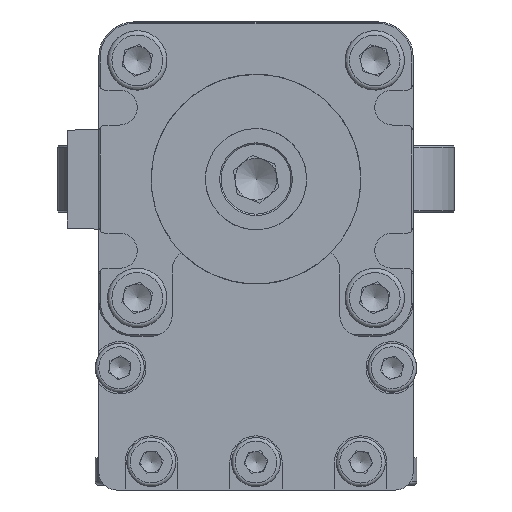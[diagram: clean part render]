
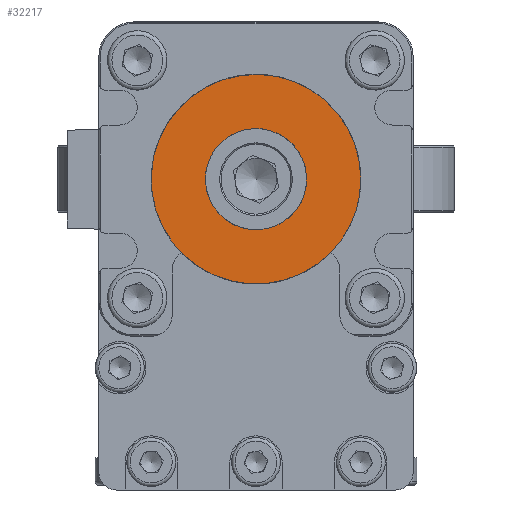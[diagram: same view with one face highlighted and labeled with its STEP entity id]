
A CAD part, front view. The second image highlights one B-rep face of the part: STEP entity #32217.
In plain terms, the highlighted planar face has unit normal (0, -1, 0).
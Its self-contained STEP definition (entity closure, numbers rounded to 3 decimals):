
#29943=PLANE('',#58108);
#32217=ADVANCED_FACE('',(#34480,#34481),#29943,.F.);
#34480=FACE_BOUND('',#36324,.T.);
#34481=FACE_BOUND('',#36325,.T.);
#36324=EDGE_LOOP('',(#41849));
#36325=EDGE_LOOP('',(#41850));
#41849=ORIENTED_EDGE('',*,*,#52736,.F.);
#41850=ORIENTED_EDGE('',*,*,#52753,.F.);
#49102=VERTEX_POINT('',#75583);
#49118=VERTEX_POINT('',#75860);
#52736=EDGE_CURVE('',#49102,#49102,#56154,.T.);
#52753=EDGE_CURVE('',#49118,#49118,#56158,.T.);
#56154=CIRCLE('',#58097,15.);
#56158=CIRCLE('',#58104,7.25);
#58097=AXIS2_PLACEMENT_3D('',#75582,#64472,#64473);
#58104=AXIS2_PLACEMENT_3D('',#75859,#64488,#64489);
#58108=AXIS2_PLACEMENT_3D('',#75922,#64496,#64497);
#64472=DIRECTION('',(0.,1.,0.));
#64473=DIRECTION('',(1.,0.,0.));
#64488=DIRECTION('',(0.,-1.,0.));
#64489=DIRECTION('',(-0.89,0.,0.456));
#64496=DIRECTION('',(0.,1.,0.));
#64497=DIRECTION('',(0.,0.,1.));
#75582=CARTESIAN_POINT('',(-200.,-741.,-22.5));
#75583=CARTESIAN_POINT('',(-185.,-741.,-22.5));
#75859=CARTESIAN_POINT('',(-200.,-741.,-22.5));
#75860=CARTESIAN_POINT('',(-206.453,-741.,-19.195));
#75922=CARTESIAN_POINT('',(-200.,-741.,-22.5));
